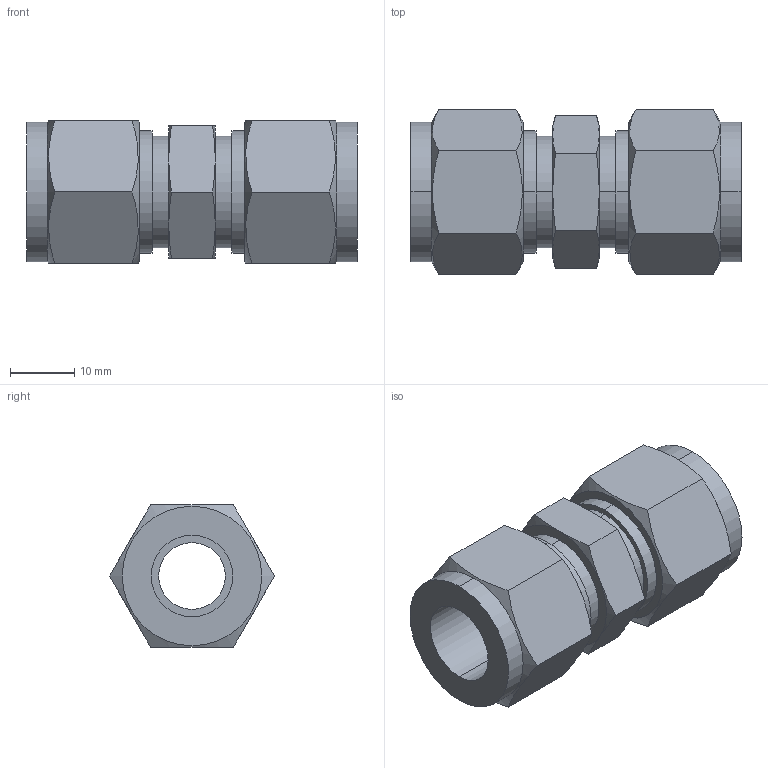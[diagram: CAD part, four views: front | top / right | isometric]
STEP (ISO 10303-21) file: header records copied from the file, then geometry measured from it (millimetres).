
FILE_DESCRIPTION (( 'STEP AP203' ), '1' );
FILE_NAME ('DUA08 SS.STEP', '2009-09-08T10:21:57', ( ' ' ), ( '' ), 'SwSTEP 2.0', 'SolidWorks 2008', '' );
FILE_SCHEMA (( 'CONFIG_CONTROL_DESIGN' ));
Length unit declared in the file: millimetre
Products named in the file (1): DUA08 SS
Bounding box: 51.4 x 25.67 x 22.23 mm (x, y, z)
Volume: 13269.6 mm3; surface area: 6887.7 mm2
Topology: 1 solids, 1 shells, 66 faces, 152 edges, 96 vertices
Faces by surface type: plane 28, cone 20, cylinder 18
Entity records: 2221 total; most frequent: CARTESIAN_POINT 707, ORIENTED_EDGE 304, DIRECTION 282, EDGE_CURVE 152, AXIS2_PLACEMENT_3D 119, VERTEX_POINT 96, EDGE_LOOP 76, ADVANCED_FACE 66
